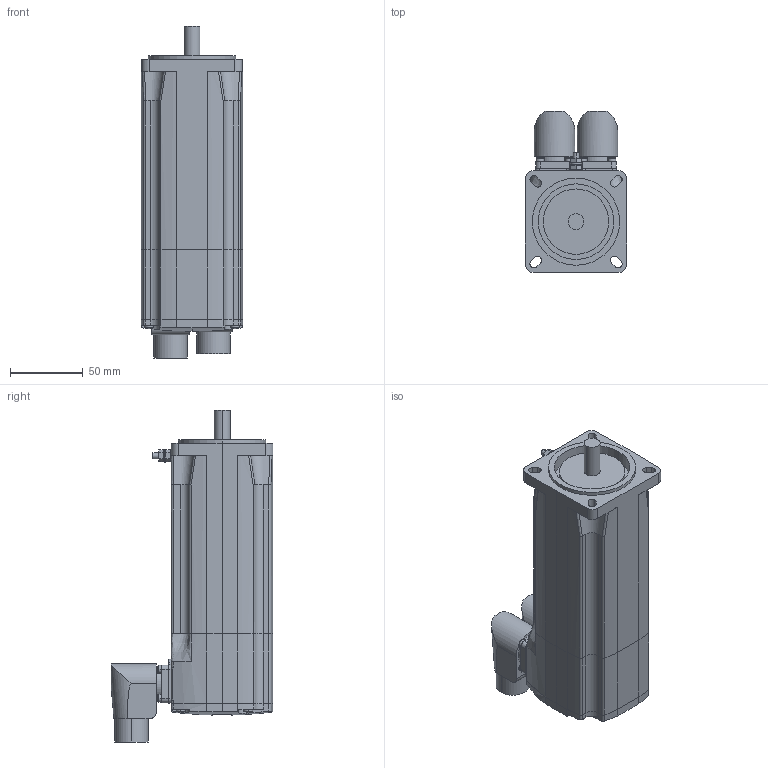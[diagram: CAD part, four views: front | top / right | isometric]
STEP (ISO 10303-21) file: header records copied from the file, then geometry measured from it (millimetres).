
FILE_DESCRIPTION (( 'STEP AP214' ), '1' );
FILE_NAME ('SH30702x0xA2100.STEP', '2013-11-29T07:56:26', ( 'Windows User' ), ( 'Schneider-Electric' ), 'SwSTEP 2.0', 'SolidWorks 2010', '' );
FILE_SCHEMA (( 'AUTOMOTIVE_DESIGN' ));
Length unit declared in the file: millimetre
Products named in the file (7): 1-100011014_K-TOPFGEHÄUSE SH3-BSH-070X_000_Topfgehäuse SH3-BSH-0702 ohne Passfeder; 1-100011011_K-ERDUNGSBOLZEN M4_000; 1-100010970_K-DECKEL MH3-070X_000_Deckel SH3-070x; 1-100008384_LAGERSCHILD SH3-070X-A_VM0_Lagerschild SH3-070x-A; K-POWER-CONINVERS-ABGEWIN_POWER-CONINVERS-ABGEWINKELT_000_ohne Bremse; K-ENCODER-CONINVERS-ABGEW_ENCODER-CONINVERS-ABGEWINKELT_000_Single- MultiTurn; SH30702x0xA2100
Assembly tree (6 placements, depth 2):
  SH30702x0xA2100
    1-100011011_K-ERDUNGSBOLZEN M4_000
    1-100011014_K-TOPFGEHÄUSE SH3-BSH-070X_000_Topfgehäuse SH3-BSH-0702 ohne Passfeder
    1-100010970_K-DECKEL MH3-070X_000_Deckel SH3-070x
    1-100008384_LAGERSCHILD SH3-070X-A_VM0_Lagerschild SH3-070x-A
    K-POWER-CONINVERS-ABGEWIN_POWER-CONINVERS-ABGEWINKELT_000_ohne Bremse
    K-ENCODER-CONINVERS-ABGEW_ENCODER-CONINVERS-ABGEWINKELT_000_Single- MultiTurn
Bounding box: 70 x 111.4 x 228.45 mm (x, y, z)
Volume: 871391.4 mm3; surface area: 96400.9 mm2
Topology: 6 solids, 6 shells, 424 faces, 1088 edges, 720 vertices
Faces by surface type: cylinder 197, plane 171, bspline 33, torus 16, cone 5, sphere 2
Entity records: 15252 total; most frequent: CARTESIAN_POINT 4631, ORIENTED_EDGE 2176, DIRECTION 2161, EDGE_CURVE 1088, AXIS2_PLACEMENT_3D 832, VERTEX_POINT 720, LINE 497, VECTOR 497
